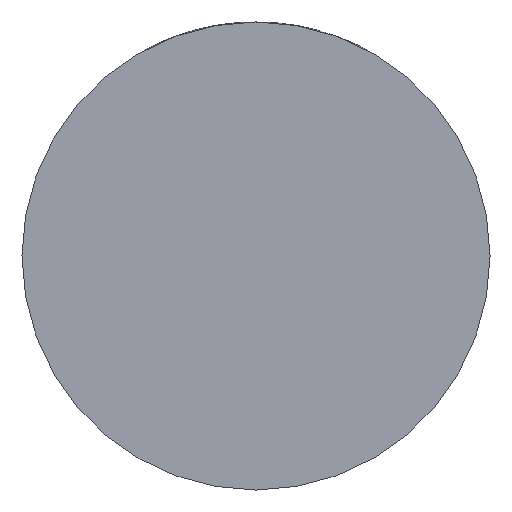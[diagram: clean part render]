
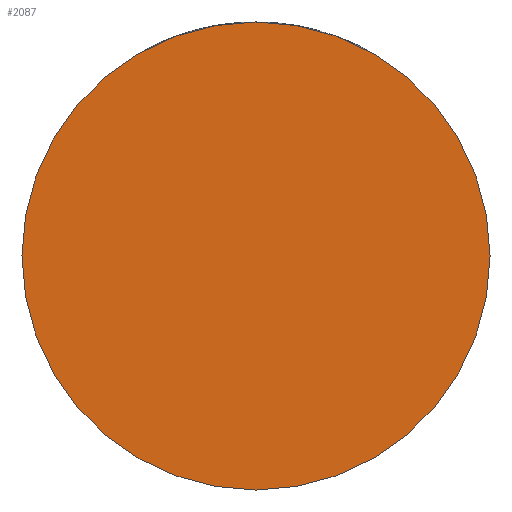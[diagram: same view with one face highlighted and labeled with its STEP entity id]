
A CAD part, front view. The second image highlights one B-rep face of the part: STEP entity #2087.
In plain terms, the highlighted planar face has unit normal (0, -1, 0).
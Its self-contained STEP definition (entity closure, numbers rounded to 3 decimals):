
#3 = FACE_OUTER_BOUND ( 'NONE', #4112, .T. ) ;
#101 = CARTESIAN_POINT ( 'NONE',  ( -39., -39., 0. ) ) ;
#308 = CIRCLE ( 'NONE', #1120, 39. ) ;
#435 = EDGE_CURVE ( 'NONE', #990, #3455, #308, .T. ) ;
#853 = CARTESIAN_POINT ( 'NONE',  ( 0., -39., 0. ) ) ;
#990 = VERTEX_POINT ( 'NONE', #101 ) ;
#1000 = AXIS2_PLACEMENT_3D ( 'NONE', #1378, #3159, #4183 ) ;
#1120 = AXIS2_PLACEMENT_3D ( 'NONE', #853, #2272, #1971 ) ;
#1222 = ORIENTED_EDGE ( 'NONE', *, *, #435, .T. ) ;
#1378 = CARTESIAN_POINT ( 'NONE',  ( 0., -39., 0. ) ) ;
#1607 = CIRCLE ( 'NONE', #2192, 39. ) ;
#1971 = DIRECTION ( 'NONE',  ( 1., 0., 0. ) ) ;
#2087 = ADVANCED_FACE ( 'NONE', ( #3 ), #3197, .T. ) ;
#2192 = AXIS2_PLACEMENT_3D ( 'NONE', #2979, #4072, #2657 ) ;
#2272 = DIRECTION ( 'NONE',  ( 0., -1., 0. ) ) ;
#2657 = DIRECTION ( 'NONE',  ( 1., 0., 0. ) ) ;
#2979 = CARTESIAN_POINT ( 'NONE',  ( 0., -39., 0. ) ) ;
#2997 = EDGE_CURVE ( 'NONE', #3455, #990, #1607, .T. ) ;
#3080 = ORIENTED_EDGE ( 'NONE', *, *, #2997, .T. ) ;
#3159 = DIRECTION ( 'NONE',  ( 0., -1., 0. ) ) ;
#3197 = PLANE ( 'NONE',  #1000 ) ;
#3455 = VERTEX_POINT ( 'NONE', #3632 ) ;
#3632 = CARTESIAN_POINT ( 'NONE',  ( 39., -39., 0. ) ) ;
#4072 = DIRECTION ( 'NONE',  ( 0., -1., 0. ) ) ;
#4112 = EDGE_LOOP ( 'NONE', ( #1222, #3080 ) ) ;
#4183 = DIRECTION ( 'NONE',  ( 1., 0., 0. ) ) ;
